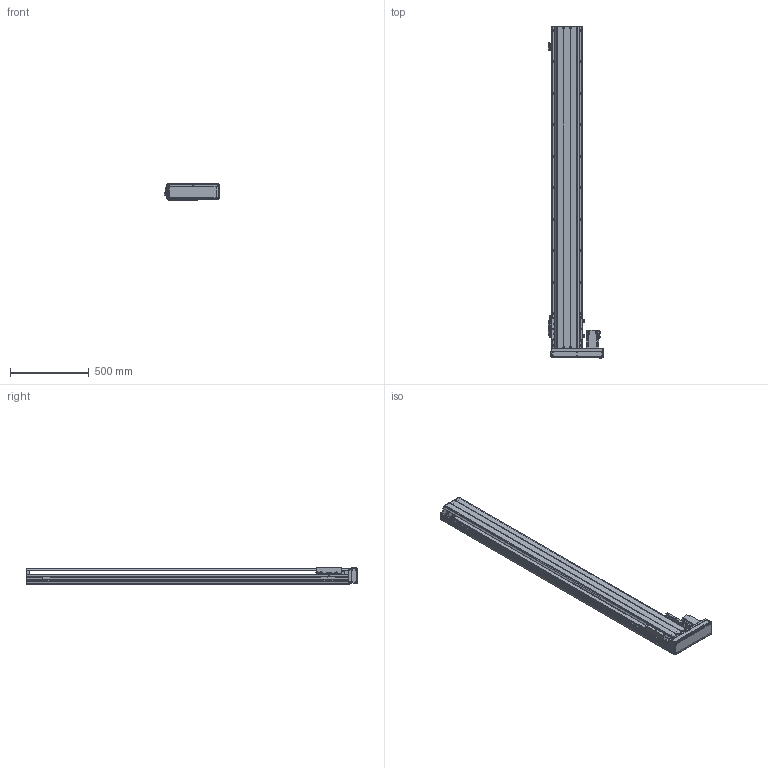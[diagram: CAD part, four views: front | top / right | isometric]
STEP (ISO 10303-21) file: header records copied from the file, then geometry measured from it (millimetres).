
FILE_DESCRIPTION(/* description */ ('MANUFACTURE'),/* implementation_level */ '2;1');
FILE_NAME(/* name */ '\\192.168.0.160\disk1\HAN SHIN Master\B-설계부문\C-표준\B-2024년\BC02-표준도면\+로봇 개선표준도면\표준 승인도 작업 폴더\3D\HG200\HG200병렬\우병렬\HG200-R70-N-1800-L10.stp',/* time_stamp */ '2024-02-23T18:30:32+09:00',/* author */ ('User'),/* organization */ (''),/* preprocessor_version */ 'ST-DEVELOPER v18.1',/* originating_system */ 'Autodesk Inventor 2022',/* authorisation */ 'LIP');
FILE_SCHEMA (('AUTOMOTIVE_DESIGN { 1 0 10303 214 3 1 1 }'));
Products named in the file (22): HG200-L70-N-0500-R10; HR200 S BASE-개선; HR180 FRONT BLOCK; HR180 FRONT BLOCK_1; HR120 STOPPER; HR200 S UPCOVER; HR200 TABLE (W,N); 750W MOTOR PLATE; HG200 750W LR MOTOR PLATE-사출; hg-kr73_; 화살표; HR160 400W LR BELT COVER; HR200 ACRYL COVER -1; HR200 ACRYL COVER -1_1; HR200 ACRYL COVER -1_2; HG200 BOTTOM COVER; HR200 SENSOR DOG; SENSOR BRK(EE-SX674A); EE_SX674A; hsr_ftht_A-M6F_grease_nipple_joint; NIPPLE CAP(신규); HR200 FRONT COVER
Assembly tree (36 placements, depth 2):
  HG200-L70-N-0500-R10
    HR200 S BASE-개선
    HR180 FRONT BLOCK
    HR180 FRONT BLOCK_1
    HR120 STOPPER  x2
    HR200 S UPCOVER
    HR200 TABLE (W,N)
    750W MOTOR PLATE
    HG200 750W LR MOTOR PLATE-사출
    hg-kr73_
    화살표  x2
    hsr_ftht_A-M6F_grease_nipple_joint  x5
    NIPPLE CAP(신규)  x5
    HR160 400W LR BELT COVER
    HR200 ACRYL COVER -1
    HR200 ACRYL COVER -1_1
    HR200 ACRYL COVER -1_2  x2
    HG200 BOTTOM COVER
    HR200 SENSOR DOG
    EE_SX674A  x3
    SENSOR BRK(EE-SX674A)  x3
    HR200 FRONT COVER
Bounding box: 351 x 2108 x 109 mm (x, y, z)
Volume: 12404253 mm3; surface area: 3382786.6 mm2
Topology: 36 solids, 36 shells, 3913 faces, 11050 edges, 7290 vertices
Faces by surface type: plane 2694, cylinder 886, cone 239, sphere 44, torus 30, bspline 20
Full cylindrical faces by diameter (mm): 2.459 x50, 3 x10, 3.242 x18, 3.4 x20, 3.5 x6, 4 x6, 4.134 x10, 4.5 x14, 4.917 x54, 5 x20, 5.5 x5, 5.6 x5, 5.9 x4, 6 x11, 6.5 x10, 6.6 x28, 6.647 x32, 7 x4, 7.6 x4, 8 x4, 9 x34, 9.5 x1, 11 x28, 14 x22, 19 x1, 25 x1, 27 x1, 30 x1, 32 x1, 38 x1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
Entity records: 111790 total; most frequent: CARTESIAN_POINT 21776, ORIENTED_EDGE 18732, DIRECTION 17530, EDGE_CURVE 9366, LINE 7466, VECTOR 7466, VERTEX_POINT 6258, AXIS2_PLACEMENT_3D 5032
